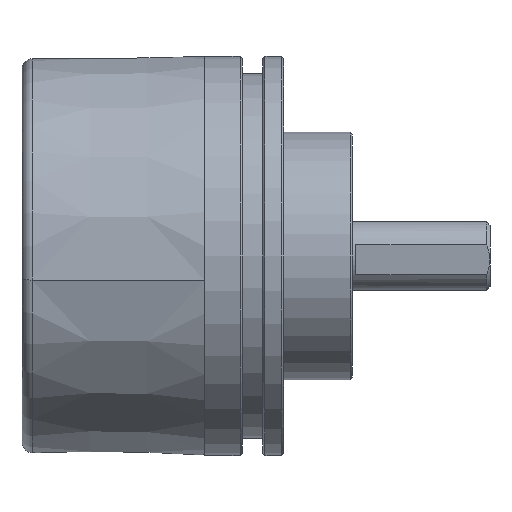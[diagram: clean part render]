
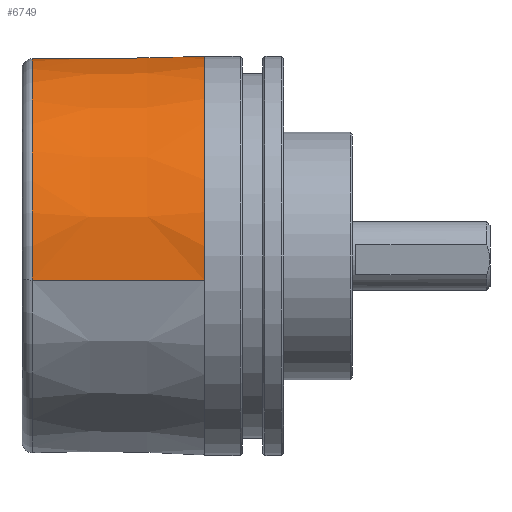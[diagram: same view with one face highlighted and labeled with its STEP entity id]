
A CAD part, front view. The second image highlights one B-rep face of the part: STEP entity #6749.
In plain terms, the highlighted conical face has half-angle 0.75 degrees and reference radius 29 mm.
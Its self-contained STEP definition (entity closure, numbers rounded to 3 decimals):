
#92 = VECTOR ( 'NONE', #18775, 1000. ) ;
#617 = FACE_OUTER_BOUND ( 'NONE', #6593, .T. ) ;
#958 = DIRECTION ( 'NONE',  ( -1., 0., 0. ) ) ;
#1718 = CARTESIAN_POINT ( 'NONE',  ( 4.5, 22.308, 18.469 ) ) ;
#2229 = VERTEX_POINT ( 'NONE', #7467 ) ;
#3630 = CARTESIAN_POINT ( 'NONE',  ( -3.498, 22.169, 18.472 ) ) ;
#4408 = CARTESIAN_POINT ( 'NONE',  ( 7.5, 22.36, 18.467 ) ) ;
#5169 = LINE ( 'NONE', #5398, #92 ) ;
#5214 = DIRECTION ( 'NONE',  ( 0., -0.993, -0.122 ) ) ;
#5398 = CARTESIAN_POINT ( 'NONE',  ( 7.5, -28.784, -3.534 ) ) ;
#5550 = CARTESIAN_POINT ( 'NONE',  ( -10.838, 22.04, 18.476 ) ) ;
#5599 = ORIENTED_EDGE ( 'NONE', *, *, #18555, .T. ) ;
#5880 = DIRECTION ( 'NONE',  ( 1., 0., 0. ) ) ;
#6593 = EDGE_LOOP ( 'NONE', ( #19329, #5599, #12089, #7451 ) ) ;
#6749 = ADVANCED_FACE ( 'NONE', ( #617 ), #23645, .T. ) ;
#6762 = CARTESIAN_POINT ( 'NONE',  ( -17.52, 21.923, 18.479 ) ) ;
#7398 = CARTESIAN_POINT ( 'NONE',  ( 7.5, 22.36, 18.467 ) ) ;
#7451 = ORIENTED_EDGE ( 'NONE', *, *, #17840, .T. ) ;
#7467 = CARTESIAN_POINT ( 'NONE',  ( 7.5, -28.784, -3.534 ) ) ;
#7483 = CARTESIAN_POINT ( 'NONE',  ( -17.52, 21.923, 18.479 ) ) ;
#8124 = AXIS2_PLACEMENT_3D ( 'NONE', #17345, #5880, #19249 ) ;
#10317 = AXIS2_PLACEMENT_3D ( 'NONE', #12422, #958, #14338 ) ;
#10763 = VERTEX_POINT ( 'NONE', #6762 ) ;
#11226 = VERTEX_POINT ( 'NONE', #4408 ) ;
#12089 = ORIENTED_EDGE ( 'NONE', *, *, #12526, .T. ) ;
#12422 = CARTESIAN_POINT ( 'NONE',  ( 7.5, 0., 0. ) ) ;
#12526 = EDGE_CURVE ( 'NONE', #2229, #11226, #14119, .T. ) ;
#12594 = VERTEX_POINT ( 'NONE', #24124 ) ;
#13174 = CARTESIAN_POINT ( 'NONE',  ( 5.5, 22.325, 18.468 ) ) ;
#14119 = CIRCLE ( 'NONE', #10317, 29. ) ;
#14338 = DIRECTION ( 'NONE',  ( 0., 0.993, 0.122 ) ) ;
#15078 = CARTESIAN_POINT ( 'NONE',  ( 0.501, 22.238, 18.47 ) ) ;
#16675 = CARTESIAN_POINT ( 'NONE',  ( 7.5, 0., 0. ) ) ;
#17020 = CARTESIAN_POINT ( 'NONE',  ( -7.498, 22.099, 18.474 ) ) ;
#17345 = CARTESIAN_POINT ( 'NONE',  ( -17.52, 0., 0. ) ) ;
#17840 = EDGE_CURVE ( 'NONE', #11226, #10763, #20876, .T. ) ;
#18555 = EDGE_CURVE ( 'NONE', #12594, #2229, #5169, .T. ) ;
#18751 = AXIS2_PLACEMENT_3D ( 'NONE', #16675, #24296, #5214 ) ;
#18775 = DIRECTION ( 'NONE',  ( 1., -0.013, -0.002 ) ) ;
#18922 = CARTESIAN_POINT ( 'NONE',  ( -14.179, 21.982, 18.477 ) ) ;
#19166 = CIRCLE ( 'NONE', #8124, 28.672 ) ;
#19249 = DIRECTION ( 'NONE',  ( 0., 0.993, 0.122 ) ) ;
#19329 = ORIENTED_EDGE ( 'NONE', *, *, #24543, .T. ) ;
#20876 = B_SPLINE_CURVE_WITH_KNOTS ( 'NONE', 3,
 ( #7398, #24636, #13174, #1718, #15078, #3630, #17020, #5550, #18922, #7483 ),
 .UNSPECIFIED., .F., .F.,
 ( 4, 3, 3, 4 ),
 ( 0., 0.003, 0.015, 0.025 ),
 .UNSPECIFIED. ) ;
#23645 = CONICAL_SURFACE ( 'NONE', #18751, 29., 0.013 ) ;
#24124 = CARTESIAN_POINT ( 'NONE',  ( -17.52, -28.459, -3.494 ) ) ;
#24296 = DIRECTION ( 'NONE',  ( 1., 0., 0. ) ) ;
#24543 = EDGE_CURVE ( 'NONE', #10763, #12594, #19166, .T. ) ;
#24636 = CARTESIAN_POINT ( 'NONE',  ( 6.5, 22.343, 18.468 ) ) ;
